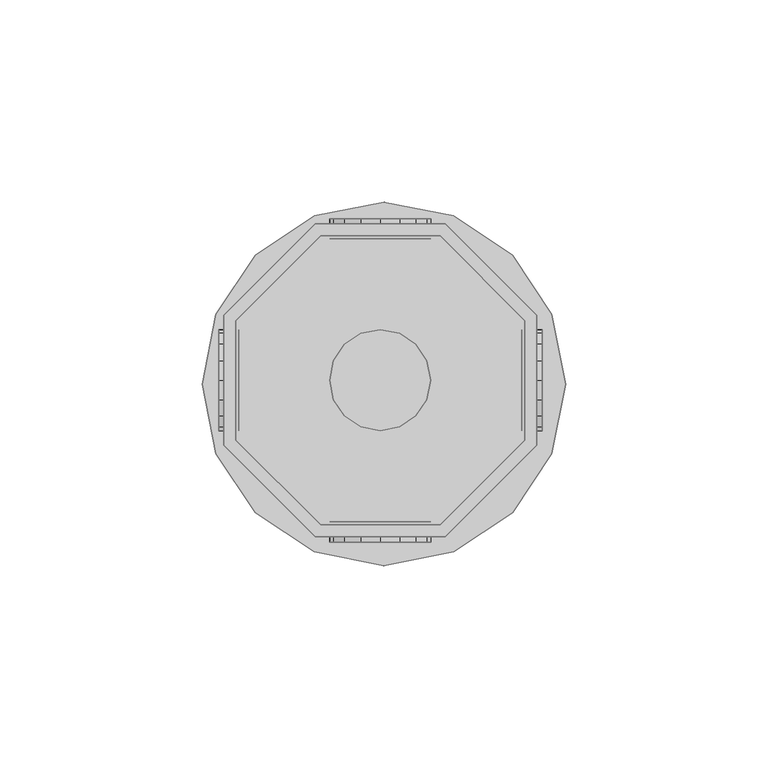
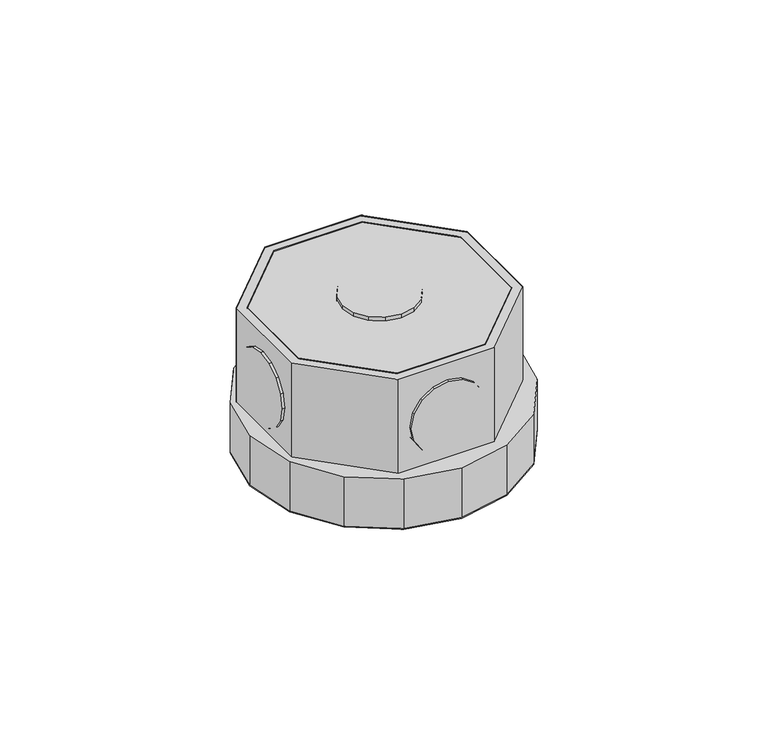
"""IFC4 building model written with IfcOpenShell, lengths in millimetres: light fixture geometry,  213278 :  213278."""

from ifc_helpers import new_model, si_unit, origin, place, context, project, spatial, triangles, source, transform, mapped, element, save


def light_fixture_59ec1d32(model_context):
    return source(origin(), model_context, "Body", "Tessellation", [
        triangles([(17509.9998138, 18755.5005341, 2924.5999741), (17480.4004578, 18755.5005341, 2975.400071), (17480.4004578, 18755.5005341, 2924.5999741), (17509.9998138, 18755.5005341, 2975.400071), (17511.1997406, 18681.0004303, 2924.5999741), (17479.1005371, 18681.0004303, 2975.400071), (17479.1005371, 18681.0004303, 2924.5999741), (17511.1997406, 18681.0004303, 2975.400071), (17459.4005768, 18734.4994904, 2975.400071), (17459.4005768, 18734.4994904, 2924.5999741), (17533.8995178, 18703.7002075, 2924.5999741), (17533.8995178, 18703.7002075, 2975.400071), (17459.4005768, 18704.9001343, 2975.400071), (17459.4005768, 18704.9001343, 2924.5999741), (17533.8995178, 18735.8005737, 2924.5999741), (17533.8995178, 18735.8005737, 2975.400071), (17480.4004578, 18684.0002472, 2975.400071), (17480.4004578, 18684.0002472, 2924.5999741), (17511.1997406, 18758.500351, 2924.5999741), (17511.1997406, 18758.500351, 2975.400071), (17509.9998138, 18684.0002472, 2924.5999741), (17509.9998138, 18684.0002472, 2975.400071), (17479.1005371, 18758.500351, 2975.400071), (17479.1005371, 18758.500351, 2924.5999741), (17530.8997009, 18704.9001343, 2924.5999741), (17530.8997009, 18704.9001343, 2975.400071), (17456.3995972, 18735.8005737, 2975.400071), (17456.3995972, 18735.8005737, 2924.5999741), (17456.3995972, 18703.7002075, 2975.400071), (17530.8997009, 18734.4994904, 2975.400071), (17530.8997009, 18734.4994904, 2924.5999741), (17456.3995972, 18703.7002075, 2924.5999741), (17459.4005768, 18704.9001343, 2972.3999634), (17480.4004578, 18684.0002472, 2972.3999634), (17509.9998138, 18684.0002472, 2972.3999634), (17530.8997009, 18704.9001343, 2972.3999634), (17530.8997009, 18734.4994904, 2972.3999634), (17509.9998138, 18755.5005341, 2972.3999634), (17480.4004578, 18755.5005341, 2972.3999634), (17459.4005768, 18734.4994904, 2972.3999634), (17456.3995972, 18735.8005737, 2942.4000504), (17479.1005371, 18758.500351, 2942.4000504), (17511.1997406, 18758.500351, 2942.4000504), (17533.8995178, 18735.8005737, 2942.4000504), (17533.8995178, 18703.7002075, 2942.4000504), (17511.1997406, 18681.0004303, 2942.4000504), (17479.1005371, 18681.0004303, 2942.4000504), (17456.3995972, 18703.7002075, 2942.4000504), (17478.8005554, 18677.2994934, 2942.4000504), (17454.4997131, 18701.6003357, 2942.4000504), (17464.2002838, 18687.0000641, 2942.4000504), (17451.0999207, 18718.8004486, 2942.4000504), (17454.4997131, 18736.1005554, 2942.4000504), (17464.2002838, 18750.6996643, 2942.4000504), (17478.8005554, 18760.400235, 2942.4000504), (17496.0994995, 18763.8000275, 2942.4000504), (17513.2996124, 18760.400235, 2942.4000504), (17537.6004547, 18736.1005554, 2942.4000504), (17527.899884, 18750.6996643, 2942.4000504), (17496.0994995, 18673.799707, 2942.4000504), (17513.2996124, 18677.2994934, 2942.4000504), (17527.899884, 18687.0000641, 2942.4000504), (17537.6004547, 18701.6003357, 2942.4000504), (17541.1002411, 18718.8004486, 2942.4000504), (17454.4997131, 18701.6003357, 2924.5999741), (17478.8005554, 18677.2994934, 2924.5999741), (17464.2002838, 18687.0000641, 2924.5999741), (17451.0999207, 18718.8004486, 2924.5999741), (17454.4997131, 18736.1005554, 2924.5999741), (17464.2002838, 18750.6996643, 2924.5999741), (17478.8005554, 18760.400235, 2924.5999741), (17496.0994995, 18763.8000275, 2924.5999741), (17513.2996124, 18760.400235, 2924.5999741), (17537.6004547, 18736.1005554, 2924.5999741), (17527.899884, 18750.6996643, 2924.5999741), (17496.0994995, 18673.799707, 2924.5999741), (17513.2996124, 18677.2994934, 2924.5999741), (17527.899884, 18687.0000641, 2924.5999741), (17537.6004547, 18701.6003357, 2924.5999741), (17541.1002411, 18718.8004486, 2924.5999741), (17483.6002625, 18759.7002777, 2952.6000092), (17490.3998474, 18759.7002777, 2945.9001274), (17486.3000977, 18759.7002777, 2948.5999626), (17482.7003174, 18759.7002777, 2957.4000069), (17495.1995544, 18759.7002777, 2944.8998978), (17483.6002625, 18759.7002777, 2962.2000046), (17500.0004242, 18759.7002777, 2945.9001274), (17486.3000977, 18759.7002777, 2966.2000511), (17504.0001801, 18759.7002777, 2948.5999626), (17490.3998474, 18759.7002777, 2968.8998863), (17506.7000153, 18759.7002777, 2952.6000092), (17495.1995544, 18759.7002777, 2969.900116), (17507.6999542, 18759.7002777, 2957.4000069), (17500.0004242, 18759.7002777, 2968.8998863), (17506.7000153, 18759.7002777, 2962.2000046), (17504.0001801, 18759.7002777, 2966.2000511), (17490.3998474, 18754.6994202, 2945.9001274), (17483.6002625, 18754.6994202, 2952.6000092), (17486.3000977, 18754.6994202, 2948.5999626), (17495.1995544, 18754.6994202, 2944.8998978), (17482.7003174, 18754.6994202, 2957.4000069), (17500.0004242, 18754.6994202, 2945.9001274), (17483.6002625, 18754.6994202, 2962.2000046), (17504.0001801, 18754.6994202, 2948.5999626), (17486.3000977, 18754.6994202, 2966.2000511), (17490.3998474, 18754.6994202, 2968.8998863), (17506.7000153, 18754.6994202, 2952.6000092), (17495.1995544, 18754.6994202, 2969.900116), (17507.6999542, 18754.6994202, 2957.4000069), (17500.0004242, 18754.6994202, 2968.8998863), (17506.7000153, 18754.6994202, 2962.2000046), (17504.0001801, 18754.6994202, 2966.2000511), (17483.6002625, 18684.7002045, 2952.6000092), (17490.3998474, 18684.7002045, 2945.9001274), (17486.3000977, 18684.7002045, 2948.5999626), (17482.7003174, 18684.7002045, 2957.4000069), (17495.1995544, 18684.7002045, 2944.8998978), (17483.6002625, 18684.7002045, 2962.2000046), (17500.0004242, 18684.7002045, 2945.9001274), (17486.3000977, 18684.7002045, 2966.2000511), (17504.0001801, 18684.7002045, 2948.5999626), (17490.3998474, 18684.7002045, 2968.8998863), (17506.7000153, 18684.7002045, 2952.6000092), (17495.1995544, 18684.7002045, 2969.900116), (17507.6999542, 18684.7002045, 2957.4000069), (17500.0004242, 18684.7002045, 2968.8998863), (17506.7000153, 18684.7002045, 2962.2000046), (17504.0001801, 18684.7002045, 2966.2000511), (17490.3998474, 18679.7005096, 2945.9001274), (17483.6002625, 18679.7005096, 2952.6000092), (17486.3000977, 18679.7005096, 2948.5999626), (17495.1995544, 18679.7005096, 2944.8998978), (17482.7003174, 18679.7005096, 2957.4000069), (17500.0004242, 18679.7005096, 2945.9001274), (17483.6002625, 18679.7005096, 2962.2000046), (17504.0001801, 18679.7005096, 2948.5999626), (17486.3000977, 18679.7005096, 2966.2000511), (17490.3998474, 18679.7005096, 2968.8998863), (17506.7000153, 18679.7005096, 2952.6000092), (17495.1995544, 18679.7005096, 2969.900116), (17507.6999542, 18679.7005096, 2957.4000069), (17500.0004242, 18679.7005096, 2968.8998863), (17506.7000153, 18679.7005096, 2962.2000046), (17504.0001801, 18679.7005096, 2966.2000511), (17460.200528, 18714.8995239, 2945.9001274), (17460.200528, 18708.1999329, 2952.6000092), (17460.200528, 18710.8997681, 2948.5999626), (17460.200528, 18719.7003937, 2944.8998978), (17460.200528, 18707.1999939, 2957.4000069), (17460.200528, 18724.5001007, 2945.9001274), (17460.200528, 18708.1999329, 2962.2000046), (17460.200528, 18728.5998505, 2948.5999626), (17460.200528, 18710.8997681, 2966.2000511), (17460.200528, 18714.8995239, 2968.8998863), (17460.200528, 18731.2996857, 2952.6000092), (17460.200528, 18719.7003937, 2969.900116), (17460.200528, 18732.1996307, 2957.4000069), (17460.200528, 18724.5001007, 2968.8998863), (17460.200528, 18731.2996857, 2962.2000046), (17460.200528, 18728.5998505, 2966.2000511), (17455.1996704, 18708.1999329, 2952.6000092), (17455.1996704, 18714.8995239, 2945.9001274), (17455.1996704, 18710.8997681, 2948.5999626), (17455.1996704, 18707.1999939, 2957.4000069), (17455.1996704, 18719.7003937, 2944.8998978), (17455.1996704, 18708.1999329, 2962.2000046), (17455.1996704, 18724.5001007, 2945.9001274), (17455.1996704, 18710.8997681, 2966.2000511), (17455.1996704, 18728.5998505, 2948.5999626), (17455.1996704, 18714.8995239, 2968.8998863), (17455.1996704, 18731.2996857, 2952.6000092), (17455.1996704, 18719.7003937, 2969.900116), (17455.1996704, 18732.1996307, 2957.4000069), (17455.1996704, 18724.5001007, 2968.8998863), (17455.1996704, 18731.2996857, 2962.2000046), (17455.1996704, 18728.5998505, 2966.2000511), (17535.1994385, 18714.8995239, 2945.9001274), (17535.1994385, 18708.1999329, 2952.6000092), (17535.1994385, 18710.8997681, 2948.5999626), (17535.1994385, 18719.7003937, 2944.8998978), (17535.1994385, 18707.1999939, 2957.4000069), (17535.1994385, 18724.5001007, 2945.9001274), (17535.1994385, 18708.1999329, 2962.2000046), (17535.1994385, 18728.5998505, 2948.5999626), (17535.1994385, 18710.8997681, 2966.2000511), (17535.1994385, 18714.8995239, 2968.8998863), (17535.1994385, 18731.2996857, 2952.6000092), (17535.1994385, 18719.7003937, 2969.900116), (17535.1994385, 18732.1996307, 2957.4000069), (17535.1994385, 18724.5001007, 2968.8998863), (17535.1994385, 18731.2996857, 2962.2000046), (17535.1994385, 18728.5998505, 2966.2000511), (17530.1997437, 18708.1999329, 2952.6000092), (17530.1997437, 18714.8995239, 2945.9001274), (17530.1997437, 18710.8997681, 2948.5999626), (17530.1997437, 18707.1999939, 2957.4000069), (17530.1997437, 18719.7003937, 2944.8998978), (17530.1997437, 18708.1999329, 2962.2000046), (17530.1997437, 18724.5001007, 2945.9001274), (17530.1997437, 18710.8997681, 2966.2000511), (17530.1997437, 18728.5998505, 2948.5999626), (17530.1997437, 18714.8995239, 2968.8998863), (17530.1997437, 18731.2996857, 2952.6000092), (17530.1997437, 18719.7003937, 2969.900116), (17530.1997437, 18732.1996307, 2957.4000069), (17530.1997437, 18724.5001007, 2968.8998863), (17530.1997437, 18731.2996857, 2962.2000046), (17530.1997437, 18728.5998505, 2966.2000511), (17490.3998474, 18708.1999329, 2976.9999733), (17483.6002625, 18714.8995239, 2976.9999733), (17486.3000977, 18710.8997681, 2976.9999733), (17482.7003174, 18719.7003937, 2976.9999733), (17495.1995544, 18707.1999939, 2976.9999733), (17483.6002625, 18724.5001007, 2976.9999733), (17500.0004242, 18708.1999329, 2976.9999733), (17486.3000977, 18728.5998505, 2976.9999733), (17504.0001801, 18710.8997681, 2976.9999733), (17490.3998474, 18731.2996857, 2976.9999733), (17506.7000153, 18714.8995239, 2976.9999733), (17495.1995544, 18732.1996307, 2976.9999733), (17507.6999542, 18719.7003937, 2976.9999733), (17500.0004242, 18731.2996857, 2976.9999733), (17506.7000153, 18724.5001007, 2976.9999733), (17504.0001801, 18728.5998505, 2976.9999733), (17483.6002625, 18714.8995239, 2971.9999878), (17490.3998474, 18708.1999329, 2971.9999878), (17486.3000977, 18710.8997681, 2971.9999878), (17482.7003174, 18719.7003937, 2971.9999878), (17495.1995544, 18707.1999939, 2971.9999878), (17483.6002625, 18724.5001007, 2971.9999878), (17500.0004242, 18708.1999329, 2971.9999878), (17486.3000977, 18728.5998505, 2971.9999878), (17504.0001801, 18710.8997681, 2971.9999878), (17490.3998474, 18731.2996857, 2971.9999878), (17506.7000153, 18714.8995239, 2971.9999878), (17495.1995544, 18732.1996307, 2971.9999878), (17507.6999542, 18719.7003937, 2971.9999878), (17500.0004242, 18731.2996857, 2971.9999878), (17506.7000153, 18724.5001007, 2971.9999878), (17504.0001801, 18728.5998505, 2971.9999878)], [[1, 2, 3], [2, 1, 4], [5, 6, 7], [6, 5, 8], [3, 9, 10], [9, 3, 2], [11, 8, 5], [8, 11, 12], [10, 13, 14], [13, 10, 9], [15, 12, 11], [12, 15, 16], [14, 17, 18], [17, 14, 13], [19, 16, 15], [16, 19, 20], [17, 21, 18], [21, 17, 22], [23, 19, 24], [19, 23, 20], [22, 25, 21], [25, 22, 26], [27, 24, 28], [24, 27, 23], [6, 13, 29], [29, 13, 27], [27, 13, 9], [27, 9, 23], [23, 9, 2], [23, 2, 4], [23, 4, 20], [20, 4, 30], [8, 17, 6], [6, 17, 13], [17, 8, 22], [12, 22, 8], [22, 12, 26], [30, 26, 12], [16, 30, 12], [20, 30, 16], [30, 1, 31], [1, 30, 4], [6, 32, 7], [32, 6, 29], [32, 14, 7], [28, 14, 32], [14, 28, 10], [24, 10, 28], [10, 24, 3], [1, 3, 24], [19, 1, 24], [31, 1, 19], [7, 18, 5], [14, 18, 7], [5, 18, 21], [5, 21, 11], [11, 21, 25], [11, 25, 31], [11, 31, 15], [15, 31, 19], [26, 31, 25], [31, 26, 30], [29, 28, 32], [28, 29, 27], [17, 33, 34], [33, 17, 13], [35, 17, 34], [17, 35, 22], [36, 22, 35], [22, 36, 26], [37, 26, 36], [26, 37, 30], [38, 30, 37], [30, 38, 4], [2, 38, 39], [38, 2, 4], [17, 9, 13], [9, 17, 22], [9, 22, 2], [2, 22, 26], [2, 26, 4], [4, 26, 30], [13, 40, 33], [40, 13, 9], [40, 34, 33], [35, 34, 40], [35, 40, 39], [35, 39, 36], [36, 39, 38], [36, 38, 37], [9, 39, 40], [39, 9, 2], [24, 41, 28], [41, 24, 42], [19, 42, 24], [42, 19, 43], [44, 19, 15], [19, 44, 43], [45, 15, 11], [15, 45, 44], [46, 11, 5], [11, 46, 45], [47, 5, 7], [5, 47, 46], [32, 47, 7], [47, 32, 48], [28, 48, 32], [48, 28, 41], [49, 50, 51], [48, 50, 49], [50, 48, 52], [41, 52, 48], [52, 41, 53], [53, 41, 54], [42, 54, 41], [54, 42, 55], [55, 42, 43], [55, 43, 56], [56, 43, 57], [57, 43, 44], [57, 44, 58], [57, 58, 59], [47, 49, 60], [49, 47, 48], [47, 60, 46], [61, 46, 60], [46, 61, 62], [46, 62, 45], [45, 62, 63], [44, 45, 63], [44, 63, 64], [44, 64, 58], [65, 66, 67], [66, 65, 32], [68, 32, 65], [32, 68, 28], [28, 68, 69], [70, 28, 69], [28, 70, 24], [71, 24, 70], [19, 24, 71], [19, 71, 72], [73, 19, 72], [19, 73, 15], [74, 15, 73], [74, 73, 75], [76, 66, 7], [32, 7, 66], [5, 76, 7], [76, 5, 77], [77, 5, 78], [11, 78, 5], [78, 11, 79], [79, 11, 15], [79, 15, 80], [80, 15, 74], [57, 75, 73], [75, 57, 59], [56, 73, 72], [73, 56, 57], [55, 72, 71], [72, 55, 56], [54, 71, 70], [71, 54, 55], [53, 70, 69], [70, 53, 54], [52, 69, 68], [69, 52, 53], [50, 68, 65], [68, 50, 52], [51, 65, 67], [65, 51, 50], [66, 51, 67], [51, 66, 49], [76, 49, 66], [49, 76, 60], [77, 60, 76], [60, 77, 61], [78, 61, 77], [61, 78, 62], [79, 62, 78], [62, 79, 63], [80, 63, 79], [63, 80, 64], [75, 58, 74], [58, 75, 59], [74, 64, 80], [64, 74, 58], [81, 82, 83], [82, 81, 84], [85, 82, 84], [85, 84, 86], [87, 85, 86], [87, 86, 88], [87, 88, 89], [89, 88, 90], [89, 90, 91], [91, 90, 92], [91, 92, 93], [93, 92, 94], [93, 94, 95], [95, 94, 96], [97, 98, 99], [98, 97, 100], [101, 98, 100], [101, 100, 102], [103, 101, 102], [103, 102, 104], [103, 104, 105], [105, 104, 106], [106, 104, 107], [106, 107, 108], [108, 107, 109], [108, 109, 110], [110, 109, 111], [110, 111, 112], [87, 104, 102], [104, 87, 89], [85, 102, 100], [102, 85, 87], [82, 100, 97], [100, 82, 85], [83, 97, 99], [97, 83, 82], [98, 83, 99], [83, 98, 81], [101, 81, 98], [81, 101, 84], [103, 84, 101], [84, 103, 86], [105, 86, 103], [86, 105, 88], [106, 88, 105], [88, 106, 90], [108, 90, 106], [90, 108, 92], [110, 92, 108], [92, 110, 94], [112, 94, 110], [94, 112, 96], [95, 112, 111], [112, 95, 96], [93, 111, 109], [111, 93, 95], [89, 107, 104], [107, 89, 91], [91, 109, 107], [109, 91, 93], [113, 114, 115], [114, 113, 116], [117, 114, 116], [117, 116, 118], [119, 117, 118], [119, 118, 120], [119, 120, 121], [121, 120, 122], [121, 122, 123], [123, 122, 124], [123, 124, 125], [125, 124, 126], [125, 126, 127], [127, 126, 128], [129, 130, 131], [130, 129, 132], [133, 130, 132], [133, 132, 134], [135, 133, 134], [135, 134, 136], [135, 136, 137], [137, 136, 138], [138, 136, 139], [138, 139, 140], [140, 139, 141], [140, 141, 142], [142, 141, 143], [142, 143, 144], [119, 136, 134], [136, 119, 121], [117, 134, 132], [134, 117, 119], [114, 132, 129], [132, 114, 117], [115, 129, 131], [129, 115, 114], [130, 115, 131], [115, 130, 113], [133, 113, 130], [113, 133, 116], [135, 116, 133], [116, 135, 118], [137, 118, 135], [118, 137, 120], [138, 120, 137], [120, 138, 122], [140, 122, 138], [122, 140, 124], [142, 124, 140], [124, 142, 126], [144, 126, 142], [126, 144, 128], [127, 144, 143], [144, 127, 128], [125, 143, 141], [143, 125, 127], [121, 139, 136], [139, 121, 123], [123, 141, 139], [141, 123, 125], [145, 146, 147], [146, 145, 148], [149, 146, 148], [149, 148, 150], [151, 149, 150], [151, 150, 152], [151, 152, 153], [153, 152, 154], [154, 152, 155], [154, 155, 156], [156, 155, 157], [156, 157, 158], [158, 157, 159], [158, 159, 160], [161, 162, 163], [162, 161, 164], [165, 162, 164], [165, 164, 166], [167, 165, 166], [167, 166, 168], [169, 167, 168], [169, 168, 170], [169, 170, 171], [171, 170, 172], [171, 172, 173], [173, 172, 174], [173, 174, 175], [175, 174, 176], [158, 176, 174], [176, 158, 160], [156, 174, 172], [174, 156, 158], [154, 172, 170], [172, 154, 156], [153, 170, 168], [170, 153, 154], [151, 168, 166], [168, 151, 153], [149, 166, 164], [166, 149, 151], [146, 164, 161], [164, 146, 149], [147, 161, 163], [161, 147, 146], [162, 147, 163], [147, 162, 145], [165, 145, 162], [145, 165, 148], [167, 148, 165], [148, 167, 150], [169, 150, 167], [150, 169, 152], [171, 152, 169], [152, 171, 155], [173, 155, 171], [155, 173, 157], [176, 159, 175], [159, 176, 160], [175, 157, 173], [157, 175, 159], [177, 178, 179], [178, 177, 180], [181, 178, 180], [181, 180, 182], [183, 181, 182], [183, 182, 184], [183, 184, 185], [185, 184, 186], [186, 184, 187], [186, 187, 188], [188, 187, 189], [188, 189, 190], [190, 189, 191], [190, 191, 192], [193, 194, 195], [194, 193, 196], [197, 194, 196], [197, 196, 198], [199, 197, 198], [199, 198, 200], [201, 199, 200], [201, 200, 202], [201, 202, 203], [203, 202, 204], [203, 204, 205], [205, 204, 206], [205, 206, 207], [207, 206, 208], [190, 208, 206], [208, 190, 192], [188, 206, 204], [206, 188, 190], [186, 204, 202], [204, 186, 188], [185, 202, 200], [202, 185, 186], [183, 200, 198], [200, 183, 185], [181, 198, 196], [198, 181, 183], [178, 196, 193], [196, 178, 181], [179, 193, 195], [193, 179, 178], [194, 179, 195], [179, 194, 177], [197, 177, 194], [177, 197, 180], [199, 180, 197], [180, 199, 182], [201, 182, 199], [182, 201, 184], [203, 184, 201], [184, 203, 187], [205, 187, 203], [187, 205, 189], [208, 191, 207], [191, 208, 192], [207, 189, 205], [189, 207, 191], [209, 210, 211], [212, 210, 209], [212, 209, 213], [214, 212, 213], [214, 213, 215], [216, 214, 215], [216, 215, 217], [216, 217, 218], [218, 217, 219], [218, 219, 220], [220, 219, 221], [220, 221, 222], [222, 221, 223], [222, 223, 224], [225, 226, 227], [226, 225, 228], [229, 226, 228], [229, 228, 230], [231, 229, 230], [231, 230, 232], [231, 232, 233], [233, 232, 234], [233, 234, 235], [235, 234, 236], [235, 236, 237], [237, 236, 238], [237, 238, 239], [239, 238, 240], [222, 240, 238], [240, 222, 224], [220, 238, 236], [238, 220, 222], [218, 236, 234], [236, 218, 220], [216, 234, 232], [234, 216, 218], [214, 232, 230], [232, 214, 216], [212, 230, 228], [230, 212, 214], [210, 228, 225], [228, 210, 212], [211, 225, 227], [225, 211, 210], [226, 211, 227], [211, 226, 209], [229, 209, 226], [209, 229, 213], [231, 213, 229], [213, 231, 215], [233, 215, 231], [215, 233, 217], [235, 217, 233], [217, 235, 219], [237, 219, 235], [219, 237, 221], [240, 223, 239], [223, 240, 224], [239, 221, 237], [221, 239, 223]], closed=False),
    ])


if __name__ == "__main__":
    model = new_model("IFC4")
    model_context = context("Model", 3, world=origin())
    ifc_project = project(units=[si_unit("LENGTHUNIT", "METRE", prefix="MILLI")], contexts=[model_context])
    site = spatial("IfcSite", under=ifc_project)
    building = spatial("IfcBuilding", under=site)
    placement = place(None, origin())
    light_fixture_shape = light_fixture_59ec1d32(model_context)
    element("IfcLightFixture", 1, ObjectType=" 213278 :  213278", at=placement, inside=building, context=model_context, shape_type="MappedRepresentation", body=[
        mapped(light_fixture_shape, transform((0.0, 0.0, 0.0), x_axis=(1.0, 0.0, 0.0), y_axis=(0.0, 1.0, 0.0), z_axis=(0.0, 0.0, 1.0))),
    ])
    save(model, "model.ifc")
